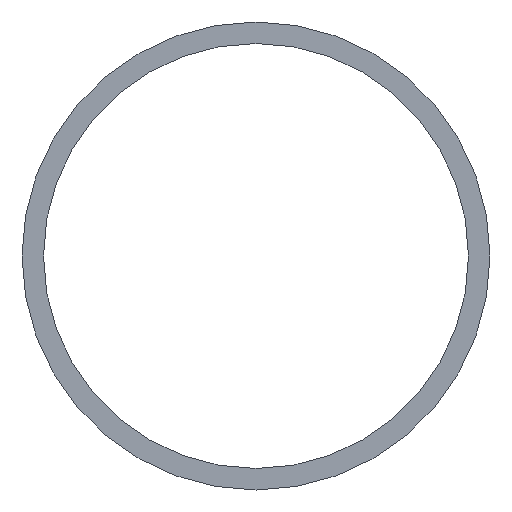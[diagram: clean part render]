
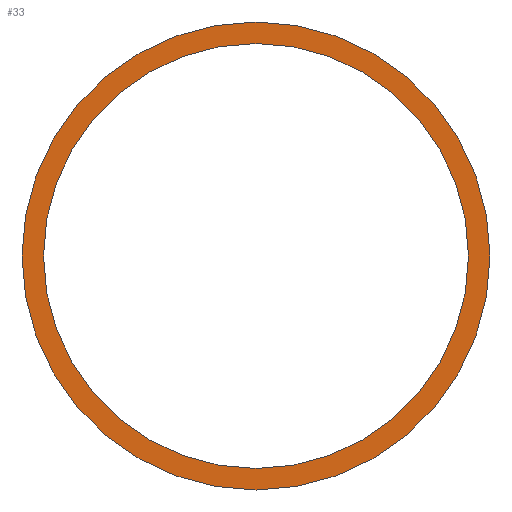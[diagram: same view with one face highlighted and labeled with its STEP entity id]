
A CAD part, left-side view. The second image highlights one B-rep face of the part: STEP entity #33.
In plain terms, the highlighted planar face has unit normal (-1, 0, 0).
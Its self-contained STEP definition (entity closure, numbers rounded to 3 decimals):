
#27=FACE_BOUND('',#45,.F.);
#29=PLANE('',#135);
#33=ADVANCED_FACE('',(#27,#39),#29,.T.);
#39=FACE_OUTER_BOUND('',#46,.F.);
#45=EDGE_LOOP('',(#59,#60));
#46=EDGE_LOOP('',(#61,#62));
#59=ORIENTED_EDGE('',*,*,#103,.T.);
#60=ORIENTED_EDGE('',*,*,#95,.T.);
#61=ORIENTED_EDGE('',*,*,#106,.F.);
#62=ORIENTED_EDGE('',*,*,#98,.F.);
#95=EDGE_CURVE('',#122,#121,#107,.T.);
#98=EDGE_CURVE('',#116,#115,#110,.T.);
#103=EDGE_CURVE('',#121,#122,#111,.T.);
#106=EDGE_CURVE('',#115,#116,#114,.T.);
#107=CIRCLE('',#125,27.394);
#110=CIRCLE('',#128,30.163);
#111=CIRCLE('',#129,27.394);
#114=CIRCLE('',#132,30.163);
#115=VERTEX_POINT('',#177);
#116=VERTEX_POINT('',#178);
#121=VERTEX_POINT('',#183);
#122=VERTEX_POINT('',#184);
#125=AXIS2_PLACEMENT_3D('',#185,#142,#143);
#128=AXIS2_PLACEMENT_3D('',#188,#148,#149);
#129=AXIS2_PLACEMENT_3D('',#193,#154,#155);
#132=AXIS2_PLACEMENT_3D('',#196,#160,#161);
#135=AXIS2_PLACEMENT_3D('',#199,#166,#167);
#142=DIRECTION('',(-1.,0.,0.));
#143=DIRECTION('',(0.,1.,0.));
#148=DIRECTION('',(-1.,0.,0.));
#149=DIRECTION('',(0.,1.,0.));
#154=DIRECTION('',(-1.,0.,0.));
#155=DIRECTION('',(0.,-1.,0.));
#160=DIRECTION('',(-1.,0.,0.));
#161=DIRECTION('',(0.,-1.,0.));
#166=DIRECTION('',(-1.,0.,0.));
#167=DIRECTION('',(0.,0.,1.));
#177=CARTESIAN_POINT('',(-1766.712,-5114.861,4399.195));
#178=CARTESIAN_POINT('',(-1766.712,-5054.536,4399.195));
#183=CARTESIAN_POINT('',(-1766.712,-5112.092,4399.195));
#184=CARTESIAN_POINT('',(-1766.712,-5057.304,4399.195));
#185=CARTESIAN_POINT('',(-1766.712,-5084.698,4399.195));
#188=CARTESIAN_POINT('',(-1766.712,-5084.698,4399.195));
#193=CARTESIAN_POINT('',(-1766.712,-5084.698,4399.195));
#196=CARTESIAN_POINT('',(-1766.712,-5084.698,4399.195));
#199=CARTESIAN_POINT('',(-1766.712,-5115.464,4368.429));
